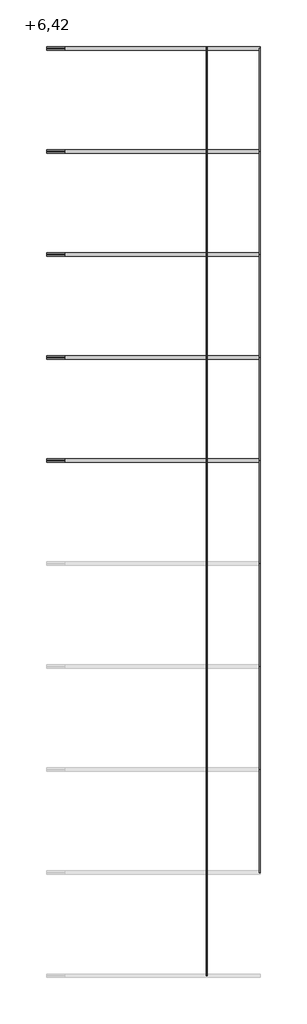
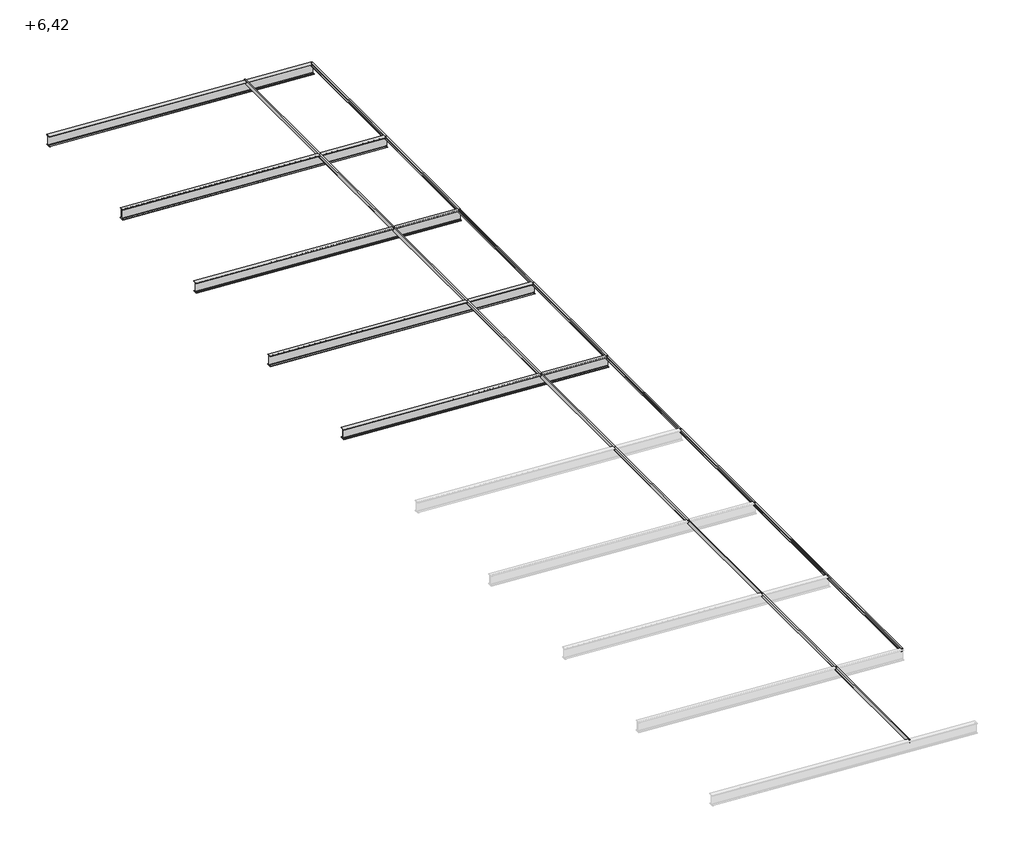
# One storey, part 2 of 2: 22 beams.
"""IFC4 building model written with IfcOpenShell, lengths in millimetres."""

from ifc_helpers import new_model, si_unit, frame, origin, place, context, project, spatial, polyline, ellipse_curve, transform, mapped, element, save
from ifc_brep_helpers import plane_surface, revolved_surface, advanced_brep
from components import c160_6856dfb5, c160_c7498115, c160_33551c21, c160_022745be

model = new_model("IFC4")

# Units and contexts
model_context = context("Model", 3, world=origin())
ifc_project = project(units=[si_unit("LENGTHUNIT", "METRE", prefix="MILLI")], contexts=[model_context])

# Site, building, storey
site = spatial("IfcSite", under=ifc_project)
building = spatial("IfcBuilding", under=site)
storey = spatial("IfcBuildingStorey", under=building, Name="+6,42", Elevation=6424.0)

# Beams
placement = place(None, origin())
c160_shape = c160_6856dfb5(model_context)
element("IfcBeam", 1, ObjectType="RPLN C - Ceowniki normalne : C160", at=placement, inside=storey, context=model_context, shape_type="MappedRepresentation", body=[
    mapped(c160_shape, transform((988.8581153, -33912.4816585, 7071.1642849), x_axis=(0.0, 1.0, 0.0), y_axis=(-0.9981748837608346, 0.0, 0.06038958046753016), z_axis=(0.06038958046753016, 0.0, 0.9981748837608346))),
])
c160_2_shape = c160_c7498115(model_context)
element("IfcBeam", 2, ObjectType="RPLN C - Ceowniki normalne : C160", at=placement, inside=storey, context=model_context, shape_type="MappedRepresentation", body=[
    mapped(c160_2_shape, transform((4109.7867288, 14087.5183415, 6882.3481038), x_axis=(0.0, -1.0, 0.0), y_axis=(0.9981748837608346, 0.0, -0.06038958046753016), z_axis=(0.06038958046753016, 0.0, 0.9981748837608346))),
])
element("IfcBeam", 3, ObjectType="RPLN C - Ceowniki normalne : C160", at=placement, inside=storey, context=model_context, shape_type="MappedRepresentation", body=[
    mapped(c160_shape, transform((988.8581153, -27912.4816585, 7071.1642849), x_axis=(0.0, 1.0, 0.0), y_axis=(-0.9981748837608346, 0.0, 0.06038958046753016), z_axis=(0.06038958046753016, 0.0, 0.9981748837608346))),
])
element("IfcBeam", 4, ObjectType="RPLN C - Ceowniki normalne : C160", at=placement, inside=storey, context=model_context, shape_type="MappedRepresentation", body=[
    mapped(c160_shape, transform((988.8581153, -21912.4816585, 7071.1642849), x_axis=(0.0, 1.0, 0.0), y_axis=(-0.9981748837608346, 0.0, 0.06038958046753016), z_axis=(0.06038958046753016, 0.0, 0.9981748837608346))),
])
element("IfcBeam", 5, ObjectType="RPLN C - Ceowniki normalne : C160", at=placement, inside=storey, context=model_context, shape_type="MappedRepresentation", body=[
    mapped(c160_shape, transform((988.8581153, -15912.4816585, 7071.1642849), x_axis=(0.0, 1.0, 0.0), y_axis=(-0.9981748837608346, 0.0, 0.06038958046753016), z_axis=(0.06038958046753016, 0.0, 0.9981748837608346))),
])
element("IfcBeam", 6, ObjectType="RPLN C - Ceowniki normalne : C160", at=placement, inside=storey, context=model_context, shape_type="MappedRepresentation", body=[
    mapped(c160_shape, transform((988.8581153, -9912.4816585, 7071.1642849), x_axis=(0.0, 1.0, 0.0), y_axis=(-0.9981748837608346, 0.0, 0.06038958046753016), z_axis=(0.06038958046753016, 0.0, 0.9981748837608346))),
])
element("IfcBeam", 7, ObjectType="RPLN C - Ceowniki normalne : C160", at=placement, inside=storey, context=model_context, shape_type="MappedRepresentation", body=[
    mapped(c160_shape, transform((988.8581153, -3912.4816585, 7071.1642849), x_axis=(0.0, 1.0, 0.0), y_axis=(-0.9981748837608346, 0.0, 0.06038958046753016), z_axis=(0.06038958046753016, 0.0, 0.9981748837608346))),
])
element("IfcBeam", 8, ObjectType="RPLN C - Ceowniki normalne : C160", at=placement, inside=storey, context=model_context, shape_type="MappedRepresentation", body=[
    mapped(c160_shape, transform((988.8581153, 2087.5183415, 7071.1642849), x_axis=(0.0, 1.0, 0.0), y_axis=(-0.9981748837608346, 0.0, 0.06038958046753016), z_axis=(0.06038958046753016, 0.0, 0.9981748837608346))),
])
element("IfcBeam", 9, ObjectType="RPLN C - Ceowniki normalne : C160", at=placement, inside=storey, context=model_context, shape_type="MappedRepresentation", body=[
    mapped(c160_shape, transform((988.8581153, 8087.5183415, 7071.1642849), x_axis=(0.0, 1.0, 0.0), y_axis=(-0.9981748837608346, 0.0, 0.06038958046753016), z_axis=(0.06038958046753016, 0.0, 0.9981748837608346))),
])
c160_3_shape = c160_33551c21(model_context)
element("IfcBeam", 10, ObjectType="RPLN C - Ceowniki normalne : C160", at=placement, inside=storey, context=model_context, shape_type="MappedRepresentation", body=[
    mapped(c160_3_shape, transform((4109.7867288, -27912.4816585, 6882.3481038), x_axis=(0.0, -1.0, 0.0), y_axis=(0.9981748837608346, 0.0, -0.06038958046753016), z_axis=(0.06038958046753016, 0.0, 0.9981748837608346))),
])
element("IfcBeam", 11, ObjectType="RPLN C - Ceowniki normalne : C160", at=placement, inside=storey, context=model_context, shape_type="MappedRepresentation", body=[
    mapped(c160_3_shape, transform((4109.7867288, -21912.4816585, 6882.3481038), x_axis=(0.0, -1.0, 0.0), y_axis=(0.9981748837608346, 0.0, -0.06038958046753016), z_axis=(0.06038958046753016, 0.0, 0.9981748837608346))),
])
element("IfcBeam", 12, ObjectType="RPLN C - Ceowniki normalne : C160", at=placement, inside=storey, context=model_context, shape_type="MappedRepresentation", body=[
    mapped(c160_3_shape, transform((4109.7867288, -15912.4816585, 6882.3481038), x_axis=(0.0, -1.0, 0.0), y_axis=(0.9981748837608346, 0.0, -0.06038958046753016), z_axis=(0.06038958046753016, 0.0, 0.9981748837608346))),
])
element("IfcBeam", 13, ObjectType="RPLN C - Ceowniki normalne : C160", at=placement, inside=storey, context=model_context, shape_type="MappedRepresentation", body=[
    mapped(c160_3_shape, transform((4109.7867288, -9912.4816585, 6882.3481038), x_axis=(0.0, -1.0, 0.0), y_axis=(0.9981748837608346, 0.0, -0.06038958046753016), z_axis=(0.06038958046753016, 0.0, 0.9981748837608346))),
])
element("IfcBeam", 14, ObjectType="RPLN C - Ceowniki normalne : C160", at=placement, inside=storey, context=model_context, shape_type="MappedRepresentation", body=[
    mapped(c160_3_shape, transform((4109.7867288, -3912.4816585, 6882.3481038), x_axis=(0.0, -1.0, 0.0), y_axis=(0.9981748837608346, 0.0, -0.06038958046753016), z_axis=(0.06038958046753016, 0.0, 0.9981748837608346))),
])
element("IfcBeam", 15, ObjectType="RPLN C - Ceowniki normalne : C160", at=placement, inside=storey, context=model_context, shape_type="MappedRepresentation", body=[
    mapped(c160_3_shape, transform((4109.7867288, 2087.5183415, 6882.3481038), x_axis=(0.0, -1.0, 0.0), y_axis=(0.9981748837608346, 0.0, -0.06038958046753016), z_axis=(0.06038958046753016, 0.0, 0.9981748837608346))),
])
element("IfcBeam", 16, ObjectType="RPLN C - Ceowniki normalne : C160", at=placement, inside=storey, context=model_context, shape_type="MappedRepresentation", body=[
    mapped(c160_3_shape, transform((4109.7867288, 8087.5183415, 6882.3481038), x_axis=(0.0, -1.0, 0.0), y_axis=(0.9981748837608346, 0.0, -0.06038958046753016), z_axis=(0.06038958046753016, 0.0, 0.9981748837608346))),
])
c160_4_shape = c160_022745be(model_context)
element("IfcBeam", 17, ObjectType="RPLN C - Ceowniki normalne : C160", at=placement, inside=storey, context=model_context, shape_type="MappedRepresentation", body=[
    mapped(c160_4_shape, transform((988.8581153, 14087.5183415, 7071.1642849), x_axis=(0.0, 1.0, 0.0), y_axis=(-0.9981748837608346, 0.0, 0.06038958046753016), z_axis=(0.06038958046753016, 0.0, 0.9981748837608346))),
])
element("IfcBeam", 18, ObjectType="RPLN IPE - Dwuteowniki równoległościenne : I500PE", at=placement, inside=storey, context=model_context, shape_type="AdvancedBrep", body=[
    advanced_brep(
    [(-8321.7693703, -6886.3816585, 7205.3741212), (-8321.7693703, -6812.4816585, 7205.3741212), (-8321.766713, -6812.4816585, 7189.3447052), (-8321.766713, -7012.4816585, 7189.3447052), (-8321.7693703, -7012.4816585, 7205.3741212), (-8321.7693703, -6938.5816585, 7205.3741212), (-8321.7728579, -6917.5816585, 7226.4127298), (-8321.8436076, -6917.5816585, 7653.1959312), (-8321.8470953, -6938.5816585, 7674.2345398), (-8321.8470953, -7012.4816585, 7674.2345398), (-8321.8497525, -7012.4816585, 7690.2639558), (-8321.8497525, -6812.4816585, 7690.2639558), (-8321.8470953, -6812.4816585, 7674.2345398), (-8321.8470953, -6886.3816585, 7674.2345398), (-8321.8436076, -6907.3816585, 7653.1959312), (-8321.7728579, -6907.3816585, 7226.4127298), (4132.9926321, -6812.4816585, 6451.8610201), (4132.9926321, -6886.3816585, 6451.8610201), (4132.9926321, -6907.3816585, 6472.8994176), (4132.9926321, -6907.3816585, 6899.6783387), (4132.9926321, -6886.3816585, 6920.7167363), (4132.9926321, -6812.4816585, 6920.7167363), (4132.9926321, -6812.4816585, 6936.7459915), (4132.9926321, -7012.4816585, 6936.7459915), (4132.9926321, -7012.4816585, 6920.7167363), (4132.9926321, -6938.5816585, 6920.7167363), (4132.9926321, -6917.5816585, 6899.6783387), (4132.9926321, -6917.5816585, 6472.8994176), (4132.9926321, -6938.5816585, 6451.8610201), (4132.9926321, -7012.4816585, 6451.8610201), (4132.9926321, -7012.4816585, 6435.8317648), (4132.9926321, -6812.4816585, 6435.8317648)],
    [
        (0, 1),
        (1, 2),
        (2, 3),
        (3, 4),
        (4, 5),
        (5, 6, ellipse_curve(frame((-8321.7728579, -6938.5816585, 7226.4127298), z_axis=(0.9999999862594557, 0.0, 0.0001657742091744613), x_axis=(-0.00016577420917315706, 0.0, 0.9999999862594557)), 21.0386088, 21.0)),
        (6, 7),
        (7, 8, ellipse_curve(frame((-8321.8436076, -6938.5816585, 7653.1959312), z_axis=(0.9999999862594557, 0.0, 0.0001657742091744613), x_axis=(-0.00016577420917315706, 0.0, 0.9999999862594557)), 21.0386088, 21.0)),
        (8, 9),
        (9, 10),
        (10, 11),
        (11, 12),
        (12, 13),
        (13, 14, ellipse_curve(frame((-8321.8436076, -6886.3816585, 7653.1959312), z_axis=(0.9999999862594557, 0.0, 0.0001657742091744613), x_axis=(-0.00016577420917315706, 0.0, 0.9999999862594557)), 21.0386088, 21.0)),
        (14, 15),
        (15, 0, ellipse_curve(frame((-8321.7728579, -6886.3816585, 7226.4127298), z_axis=(0.9999999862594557, 0.0, 0.0001657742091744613), x_axis=(-0.00016577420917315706, 0.0, 0.9999999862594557)), 21.0386088, 21.0)),
        (16, 17),
        (17, 18, ellipse_curve(frame((4132.9926321, -6886.3816585, 6472.8994176), z_axis=(-1.0, 0.0, 0.0), x_axis=(0.0, 0.0, 0.9999999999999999)), 21.0383975, 21.0)),
        (18, 19),
        (19, 20, ellipse_curve(frame((4132.9926321, -6886.3816585, 6899.6783387), z_axis=(-1.0, 0.0, 0.0), x_axis=(0.0, 0.0, 0.9999999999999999)), 21.0383975, 21.0)),
        (20, 21),
        (21, 22),
        (22, 23),
        (23, 24),
        (24, 25),
        (25, 26, ellipse_curve(frame((4132.9926321, -6938.5816585, 6899.6783387), z_axis=(-1.0, 0.0, 0.0), x_axis=(0.0, 0.0, 0.9999999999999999)), 21.0383975, 21.0)),
        (26, 27),
        (27, 28, ellipse_curve(frame((4132.9926321, -6938.5816585, 6472.8994176), z_axis=(-1.0, 0.0, 0.0), x_axis=(0.0, 0.0, 0.9999999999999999)), 21.0383975, 21.0)),
        (28, 29),
        (29, 30),
        (30, 31),
        (31, 16),
        (16, 1),
        (0, 17),
        (31, 2),
        (30, 3),
        (29, 4),
        (28, 5),
        (27, 6),
        (26, 7),
        (25, 8),
        (24, 9),
        (23, 10),
        (22, 11),
        (21, 12),
        (20, 13),
        (19, 14),
        (18, 15),
    ],
    [
        plane_surface(frame((-8321.6325431, -36912.4816585, 6379.9913475), z_axis=(-0.9999999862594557, 0.0, -0.0001657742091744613), x_axis=(0.0001657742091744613, 0.0, -0.9999999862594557))),
        plane_surface(frame((4132.9926321, -36912.4816585, 6983.0025864), z_axis=(1.0, 0.0, 0.0), x_axis=(0.0, 0.0, 1.0))),
        plane_surface(frame((4227.795571, -6812.4816585, 6446.1254423), z_axis=(0.06038958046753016, 0.0, 0.9981748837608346), x_axis=(-0.9981748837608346, 0.0, 0.06038958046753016))),
        plane_surface(frame((4226.8293377, -6812.4816585, 6430.1546441), z_axis=(0.0, 1.0, 0.0), x_axis=(-0.9981748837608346, 0.0, 0.06038958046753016))),
        plane_surface(frame((4226.8293377, -7012.4816585, 6430.1546441), z_axis=(-0.06038958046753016, 0.0, -0.9981748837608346), x_axis=(-0.9981748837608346, 0.0, 0.06038958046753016))),
        plane_surface(frame((4227.795571, -7012.4816585, 6446.1254423), z_axis=(0.0, -1.0, 0.0), x_axis=(-0.9981748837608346, 0.0, 0.06038958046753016))),
        plane_surface(frame((4227.795571, -6938.5816585, 6446.1254423), z_axis=(0.06038958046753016, 0.0, 0.9981748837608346), x_axis=(-0.9981748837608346, 0.0, 0.06038958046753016))),
        revolved_surface(polyline([(-8323.044526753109, -6959.5816585, 7226.489665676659), (4134.260813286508, -6959.5816585, 6472.822692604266)]), (4229.0637522, -6938.5816585, 6467.0871148), (-0.9981748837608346, 0.0, 0.06038958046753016)),
        plane_surface(frame((4254.7897134, -6917.5816585, 6892.3096153), z_axis=(0.0, -1.0, 0.0), x_axis=(-0.9981748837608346, 0.0, 0.06038958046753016))),
        revolved_surface(polyline([(-8323.115276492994, -6959.5816585, 7653.272867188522), (4134.260813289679, -6959.5816585, 6899.601613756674)]), (4254.7897134, -6938.5816585, 6892.3096153), (-0.9981748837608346, 0.0, 0.06038958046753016)),
        plane_surface(frame((4256.0578946, -7012.4816585, 6913.2712879), z_axis=(-0.06038958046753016, 0.0, -0.9981748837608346), x_axis=(-0.9981748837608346, 0.0, 0.06038958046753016))),
        plane_surface(frame((4257.0241279, -7012.4816585, 6929.242086), z_axis=(0.0, -1.0, 0.0), x_axis=(-0.9981748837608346, 0.0, 0.06038958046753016))),
        plane_surface(frame((4257.0241279, -6812.4816585, 6929.242086), z_axis=(0.06038958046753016, 0.0, 0.9981748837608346), x_axis=(-0.9981748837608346, 0.0, 0.06038958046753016))),
        plane_surface(frame((4256.0578946, -6812.4816585, 6913.2712879), z_axis=(0.0, 1.0, 0.0), x_axis=(-0.9981748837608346, 0.0, 0.06038958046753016))),
        plane_surface(frame((4256.0578946, -6886.3816585, 6913.2712879), z_axis=(-0.06038958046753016, 0.0, -0.9981748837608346), x_axis=(-0.9981748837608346, 0.0, 0.06038958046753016))),
        revolved_surface(polyline([(-8323.115276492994, -6907.3816585, 7653.272867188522), (4134.260813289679, -6907.3816585, 6899.601613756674)]), (4254.7897134, -6886.3816585, 6892.3096153), (-0.9981748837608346, 0.0, 0.06038958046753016)),
        plane_surface(frame((4229.0637522, -6907.3816585, 6467.0871148), z_axis=(0.0, 1.0, 0.0), x_axis=(-0.9981748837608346, 0.0, 0.06038958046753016))),
        revolved_surface(polyline([(-8323.044526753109, -6907.3816585, 7226.489665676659), (4134.260813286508, -6907.3816585, 6472.822692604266)]), (4229.0637522, -6886.3816585, 6467.0871148), (-0.9981748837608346, 0.0, 0.06038958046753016)),
    ],
    [
        (0, [[1, 2, 3, 4, 5, 6, 7, 8, 9, 10, 11, 12, 13, 14, 15, 16]]),
        (1, [[17, 18, 19, 20, 21, 22, 23, 24, 25, 26, 27, 28, 29, 30, 31, 32]]),
        (2, [[33, -1, 34, -17]]),
        (3, [[35, -2, -33, -32]]),
        (4, [[36, -3, -35, -31]]),
        (5, [[37, -4, -36, -30]]),
        (6, [[38, -5, -37, -29]]),
        (7, [[39, -6, -38, -28]]),
        (8, [[40, -7, -39, -27]]),
        (9, [[41, -8, -40, -26]]),
        (10, [[42, -9, -41, -25]]),
        (11, [[43, -10, -42, -24]]),
        (12, [[44, -11, -43, -23]]),
        (13, [[45, -12, -44, -22]]),
        (14, [[46, -13, -45, -21]]),
        (15, [[47, -14, -46, -20]]),
        (16, [[48, -15, -47, -19]]),
        (17, [[-34, -16, -48, -18]]),
    ],
),
])
element("IfcBeam", 19, ObjectType="RPLN IPE - Dwuteowniki równoległościenne : I500PE", at=placement, inside=storey, context=model_context, shape_type="AdvancedBrep", body=[
    advanced_brep(
    [(-8321.7693703, -886.3816585, 7205.3741212), (-8321.7693703, -812.4816585, 7205.3741212), (-8321.766713, -812.4816585, 7189.3447052), (-8321.766713, -1012.4816585, 7189.3447052), (-8321.7693703, -1012.4816585, 7205.3741212), (-8321.7693703, -938.5816585, 7205.3741212), (-8321.7728579, -917.5816585, 7226.4127298), (-8321.8436076, -917.5816585, 7653.1959312), (-8321.8470953, -938.5816585, 7674.2345398), (-8321.8470953, -1012.4816585, 7674.2345398), (-8321.8497525, -1012.4816585, 7690.2639558), (-8321.8497525, -812.4816585, 7690.2639558), (-8321.8470953, -812.4816585, 7674.2345398), (-8321.8470953, -886.3816585, 7674.2345398), (-8321.8436076, -907.3816585, 7653.1959312), (-8321.7728579, -907.3816585, 7226.4127298), (4132.9926321, -812.4816585, 6451.8610201), (4132.9926321, -886.3816585, 6451.8610201), (4132.9926321, -907.3816585, 6472.8994176), (4132.9926321, -907.3816585, 6899.6783387), (4132.9926321, -886.3816585, 6920.7167363), (4132.9926321, -812.4816585, 6920.7167363), (4132.9926321, -812.4816585, 6936.7459915), (4132.9926321, -1012.4816585, 6936.7459915), (4132.9926321, -1012.4816585, 6920.7167363), (4132.9926321, -938.5816585, 6920.7167363), (4132.9926321, -917.5816585, 6899.6783387), (4132.9926321, -917.5816585, 6472.8994176), (4132.9926321, -938.5816585, 6451.8610201), (4132.9926321, -1012.4816585, 6451.8610201), (4132.9926321, -1012.4816585, 6435.8317648), (4132.9926321, -812.4816585, 6435.8317648)],
    [
        (0, 1),
        (1, 2),
        (2, 3),
        (3, 4),
        (4, 5),
        (5, 6, ellipse_curve(frame((-8321.7728579, -938.5816585, 7226.4127298), z_axis=(0.9999999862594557, 0.0, 0.0001657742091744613), x_axis=(-0.00016577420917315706, 0.0, 0.9999999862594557)), 21.0386088, 21.0)),
        (6, 7),
        (7, 8, ellipse_curve(frame((-8321.8436076, -938.5816585, 7653.1959312), z_axis=(0.9999999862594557, 0.0, 0.0001657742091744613), x_axis=(-0.00016577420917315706, 0.0, 0.9999999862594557)), 21.0386088, 21.0)),
        (8, 9),
        (9, 10),
        (10, 11),
        (11, 12),
        (12, 13),
        (13, 14, ellipse_curve(frame((-8321.8436076, -886.3816585, 7653.1959312), z_axis=(0.9999999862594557, 0.0, 0.0001657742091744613), x_axis=(-0.00016577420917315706, 0.0, 0.9999999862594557)), 21.0386088, 21.0)),
        (14, 15),
        (15, 0, ellipse_curve(frame((-8321.7728579, -886.3816585, 7226.4127298), z_axis=(0.9999999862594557, 0.0, 0.0001657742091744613), x_axis=(-0.00016577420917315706, 0.0, 0.9999999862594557)), 21.0386088, 21.0)),
        (16, 17),
        (17, 18, ellipse_curve(frame((4132.9926321, -886.3816585, 6472.8994176), z_axis=(-1.0, 0.0, 0.0), x_axis=(0.0, 0.0, 0.9999999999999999)), 21.0383975, 21.0)),
        (18, 19),
        (19, 20, ellipse_curve(frame((4132.9926321, -886.3816585, 6899.6783387), z_axis=(-1.0, 0.0, 0.0), x_axis=(0.0, 0.0, 0.9999999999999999)), 21.0383975, 21.0)),
        (20, 21),
        (21, 22),
        (22, 23),
        (23, 24),
        (24, 25),
        (25, 26, ellipse_curve(frame((4132.9926321, -938.5816585, 6899.6783387), z_axis=(-1.0, 0.0, 0.0), x_axis=(0.0, 0.0, 0.9999999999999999)), 21.0383975, 21.0)),
        (26, 27),
        (27, 28, ellipse_curve(frame((4132.9926321, -938.5816585, 6472.8994176), z_axis=(-1.0, 0.0, 0.0), x_axis=(0.0, 0.0, 0.9999999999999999)), 21.0383975, 21.0)),
        (28, 29),
        (29, 30),
        (30, 31),
        (31, 16),
        (16, 1),
        (0, 17),
        (31, 2),
        (30, 3),
        (29, 4),
        (28, 5),
        (27, 6),
        (26, 7),
        (25, 8),
        (24, 9),
        (23, 10),
        (22, 11),
        (21, 12),
        (20, 13),
        (19, 14),
        (18, 15),
    ],
    [
        plane_surface(frame((-8321.6325431, -36912.4816585, 6379.9913475), z_axis=(-0.9999999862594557, 0.0, -0.0001657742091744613), x_axis=(0.0001657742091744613, 0.0, -0.9999999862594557))),
        plane_surface(frame((4132.9926321, -36912.4816585, 6983.0025864), z_axis=(1.0, 0.0, 0.0), x_axis=(0.0, 0.0, 1.0))),
        plane_surface(frame((4227.795571, -812.4816585, 6446.1254423), z_axis=(0.06038958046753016, 0.0, 0.9981748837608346), x_axis=(-0.9981748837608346, 0.0, 0.06038958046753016))),
        plane_surface(frame((4226.8293377, -812.4816585, 6430.1546441), z_axis=(0.0, 1.0, 0.0), x_axis=(-0.9981748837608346, 0.0, 0.06038958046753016))),
        plane_surface(frame((4226.8293377, -1012.4816585, 6430.1546441), z_axis=(-0.06038958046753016, 0.0, -0.9981748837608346), x_axis=(-0.9981748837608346, 0.0, 0.06038958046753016))),
        plane_surface(frame((4227.795571, -1012.4816585, 6446.1254423), z_axis=(0.0, -1.0, 0.0), x_axis=(-0.9981748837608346, 0.0, 0.06038958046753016))),
        plane_surface(frame((4227.795571, -938.5816585, 6446.1254423), z_axis=(0.06038958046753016, 0.0, 0.9981748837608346), x_axis=(-0.9981748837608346, 0.0, 0.06038958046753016))),
        revolved_surface(polyline([(-8323.044526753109, -959.5816585, 7226.489665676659), (4134.260813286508, -959.5816585, 6472.822692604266)]), (4229.0637522, -938.5816585, 6467.0871148), (-0.9981748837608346, 0.0, 0.06038958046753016)),
        plane_surface(frame((4254.7897134, -917.5816585, 6892.3096153), z_axis=(0.0, -1.0, 0.0), x_axis=(-0.9981748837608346, 0.0, 0.06038958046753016))),
        revolved_surface(polyline([(-8323.115276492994, -959.5816585, 7653.272867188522), (4134.260813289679, -959.5816585, 6899.601613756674)]), (4254.7897134, -938.5816585, 6892.3096153), (-0.9981748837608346, 0.0, 0.06038958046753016)),
        plane_surface(frame((4256.0578946, -1012.4816585, 6913.2712879), z_axis=(-0.06038958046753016, 0.0, -0.9981748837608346), x_axis=(-0.9981748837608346, 0.0, 0.06038958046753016))),
        plane_surface(frame((4257.0241279, -1012.4816585, 6929.242086), z_axis=(0.0, -1.0, 0.0), x_axis=(-0.9981748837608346, 0.0, 0.06038958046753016))),
        plane_surface(frame((4257.0241279, -812.4816585, 6929.242086), z_axis=(0.06038958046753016, 0.0, 0.9981748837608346), x_axis=(-0.9981748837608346, 0.0, 0.06038958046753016))),
        plane_surface(frame((4256.0578946, -812.4816585, 6913.2712879), z_axis=(0.0, 1.0, 0.0), x_axis=(-0.9981748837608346, 0.0, 0.06038958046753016))),
        plane_surface(frame((4256.0578946, -886.3816585, 6913.2712879), z_axis=(-0.06038958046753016, 0.0, -0.9981748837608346), x_axis=(-0.9981748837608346, 0.0, 0.06038958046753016))),
        revolved_surface(polyline([(-8323.115276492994, -907.3816585, 7653.272867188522), (4134.260813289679, -907.3816585, 6899.601613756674)]), (4254.7897134, -886.3816585, 6892.3096153), (-0.9981748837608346, 0.0, 0.06038958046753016)),
        plane_surface(frame((4229.0637522, -907.3816585, 6467.0871148), z_axis=(0.0, 1.0, 0.0), x_axis=(-0.9981748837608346, 0.0, 0.06038958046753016))),
        revolved_surface(polyline([(-8323.044526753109, -907.3816585, 7226.489665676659), (4134.260813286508, -907.3816585, 6472.822692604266)]), (4229.0637522, -886.3816585, 6467.0871148), (-0.9981748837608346, 0.0, 0.06038958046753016)),
    ],
    [
        (0, [[1, 2, 3, 4, 5, 6, 7, 8, 9, 10, 11, 12, 13, 14, 15, 16]]),
        (1, [[17, 18, 19, 20, 21, 22, 23, 24, 25, 26, 27, 28, 29, 30, 31, 32]]),
        (2, [[33, -1, 34, -17]]),
        (3, [[35, -2, -33, -32]]),
        (4, [[36, -3, -35, -31]]),
        (5, [[37, -4, -36, -30]]),
        (6, [[38, -5, -37, -29]]),
        (7, [[39, -6, -38, -28]]),
        (8, [[40, -7, -39, -27]]),
        (9, [[41, -8, -40, -26]]),
        (10, [[42, -9, -41, -25]]),
        (11, [[43, -10, -42, -24]]),
        (12, [[44, -11, -43, -23]]),
        (13, [[45, -12, -44, -22]]),
        (14, [[46, -13, -45, -21]]),
        (15, [[47, -14, -46, -20]]),
        (16, [[48, -15, -47, -19]]),
        (17, [[-34, -16, -48, -18]]),
    ],
),
])
element("IfcBeam", 20, ObjectType="RPLN IPE - Dwuteowniki równoległościenne : I500PE", at=placement, inside=storey, context=model_context, shape_type="AdvancedBrep", body=[
    advanced_brep(
    [(-8321.7693703, 5113.6183415, 7205.3741212), (-8321.7693703, 5187.5183415, 7205.3741212), (-8321.766713, 5187.5183415, 7189.3447052), (-8321.766713, 4987.5183415, 7189.3447052), (-8321.7693703, 4987.5183415, 7205.3741212), (-8321.7693703, 5061.4183415, 7205.3741212), (-8321.7728579, 5082.4183415, 7226.4127298), (-8321.8436076, 5082.4183415, 7653.1959312), (-8321.8470953, 5061.4183415, 7674.2345398), (-8321.8470953, 4987.5183415, 7674.2345398), (-8321.8497525, 4987.5183415, 7690.2639558), (-8321.8497525, 5187.5183415, 7690.2639558), (-8321.8470953, 5187.5183415, 7674.2345398), (-8321.8470953, 5113.6183415, 7674.2345398), (-8321.8436076, 5092.6183415, 7653.1959312), (-8321.7728579, 5092.6183415, 7226.4127298), (4132.9926321, 5187.5183415, 6451.8610201), (4132.9926321, 5113.6183415, 6451.8610201), (4132.9926321, 5092.6183415, 6472.8994176), (4132.9926321, 5092.6183415, 6899.6783387), (4132.9926321, 5113.6183415, 6920.7167363), (4132.9926321, 5187.5183415, 6920.7167363), (4132.9926321, 5187.5183415, 6936.7459915), (4132.9926321, 4987.5183415, 6936.7459915), (4132.9926321, 4987.5183415, 6920.7167363), (4132.9926321, 5061.4183415, 6920.7167363), (4132.9926321, 5082.4183415, 6899.6783387), (4132.9926321, 5082.4183415, 6472.8994176), (4132.9926321, 5061.4183415, 6451.8610201), (4132.9926321, 4987.5183415, 6451.8610201), (4132.9926321, 4987.5183415, 6435.8317648), (4132.9926321, 5187.5183415, 6435.8317648)],
    [
        (0, 1),
        (1, 2),
        (2, 3),
        (3, 4),
        (4, 5),
        (5, 6, ellipse_curve(frame((-8321.7728579, 5061.4183415, 7226.4127298), z_axis=(0.9999999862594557, 0.0, 0.0001657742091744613), x_axis=(-0.00016577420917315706, 0.0, 0.9999999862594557)), 21.0386088, 21.0)),
        (6, 7),
        (7, 8, ellipse_curve(frame((-8321.8436076, 5061.4183415, 7653.1959312), z_axis=(0.9999999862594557, 0.0, 0.0001657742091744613), x_axis=(-0.00016577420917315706, 0.0, 0.9999999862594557)), 21.0386088, 21.0)),
        (8, 9),
        (9, 10),
        (10, 11),
        (11, 12),
        (12, 13),
        (13, 14, ellipse_curve(frame((-8321.8436076, 5113.6183415, 7653.1959312), z_axis=(0.9999999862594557, 0.0, 0.0001657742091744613), x_axis=(-0.00016577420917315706, 0.0, 0.9999999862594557)), 21.0386088, 21.0)),
        (14, 15),
        (15, 0, ellipse_curve(frame((-8321.7728579, 5113.6183415, 7226.4127298), z_axis=(0.9999999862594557, 0.0, 0.0001657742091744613), x_axis=(-0.00016577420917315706, 0.0, 0.9999999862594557)), 21.0386088, 21.0)),
        (16, 17),
        (17, 18, ellipse_curve(frame((4132.9926321, 5113.6183415, 6472.8994176), z_axis=(-1.0, 0.0, 0.0), x_axis=(0.0, 0.0, 0.9999999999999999)), 21.0383975, 21.0)),
        (18, 19),
        (19, 20, ellipse_curve(frame((4132.9926321, 5113.6183415, 6899.6783387), z_axis=(-1.0, 0.0, 0.0), x_axis=(0.0, 0.0, 0.9999999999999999)), 21.0383975, 21.0)),
        (20, 21),
        (21, 22),
        (22, 23),
        (23, 24),
        (24, 25),
        (25, 26, ellipse_curve(frame((4132.9926321, 5061.4183415, 6899.6783387), z_axis=(-1.0, 0.0, 0.0), x_axis=(0.0, 0.0, 0.9999999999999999)), 21.0383975, 21.0)),
        (26, 27),
        (27, 28, ellipse_curve(frame((4132.9926321, 5061.4183415, 6472.8994176), z_axis=(-1.0, 0.0, 0.0), x_axis=(0.0, 0.0, 0.9999999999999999)), 21.0383975, 21.0)),
        (28, 29),
        (29, 30),
        (30, 31),
        (31, 16),
        (16, 1),
        (0, 17),
        (31, 2),
        (30, 3),
        (29, 4),
        (28, 5),
        (27, 6),
        (26, 7),
        (25, 8),
        (24, 9),
        (23, 10),
        (22, 11),
        (21, 12),
        (20, 13),
        (19, 14),
        (18, 15),
    ],
    [
        plane_surface(frame((-8321.6325431, -36912.4816585, 6379.9913475), z_axis=(-0.9999999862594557, 0.0, -0.0001657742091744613), x_axis=(0.0001657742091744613, 0.0, -0.9999999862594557))),
        plane_surface(frame((4132.9926321, -36912.4816585, 6983.0025864), z_axis=(1.0, 0.0, 0.0), x_axis=(0.0, 0.0, 1.0))),
        plane_surface(frame((4227.795571, 5187.5183415, 6446.1254423), z_axis=(0.06038958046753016, 0.0, 0.9981748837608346), x_axis=(-0.9981748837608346, 0.0, 0.06038958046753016))),
        plane_surface(frame((4226.8293377, 5187.5183415, 6430.1546441), z_axis=(0.0, 1.0, 0.0), x_axis=(-0.9981748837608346, 0.0, 0.06038958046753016))),
        plane_surface(frame((4226.8293377, 4987.5183415, 6430.1546441), z_axis=(-0.06038958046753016, 0.0, -0.9981748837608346), x_axis=(-0.9981748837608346, 0.0, 0.06038958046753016))),
        plane_surface(frame((4227.795571, 4987.5183415, 6446.1254423), z_axis=(0.0, -1.0, 0.0), x_axis=(-0.9981748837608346, 0.0, 0.06038958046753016))),
        plane_surface(frame((4227.795571, 5061.4183415, 6446.1254423), z_axis=(0.06038958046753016, 0.0, 0.9981748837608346), x_axis=(-0.9981748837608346, 0.0, 0.06038958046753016))),
        revolved_surface(polyline([(-8323.044526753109, 5040.4183415, 7226.489665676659), (4134.260813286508, 5040.4183415, 6472.822692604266)]), (4229.0637522, 5061.4183415, 6467.0871148), (-0.9981748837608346, 0.0, 0.06038958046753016)),
        plane_surface(frame((4254.7897134, 5082.4183415, 6892.3096153), z_axis=(0.0, -1.0, 0.0), x_axis=(-0.9981748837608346, 0.0, 0.06038958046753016))),
        revolved_surface(polyline([(-8323.115276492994, 5040.4183415, 7653.272867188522), (4134.260813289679, 5040.4183415, 6899.601613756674)]), (4254.7897134, 5061.4183415, 6892.3096153), (-0.9981748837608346, 0.0, 0.06038958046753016)),
        plane_surface(frame((4256.0578946, 4987.5183415, 6913.2712879), z_axis=(-0.06038958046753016, 0.0, -0.9981748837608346), x_axis=(-0.9981748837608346, 0.0, 0.06038958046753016))),
        plane_surface(frame((4257.0241279, 4987.5183415, 6929.242086), z_axis=(0.0, -1.0, 0.0), x_axis=(-0.9981748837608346, 0.0, 0.06038958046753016))),
        plane_surface(frame((4257.0241279, 5187.5183415, 6929.242086), z_axis=(0.06038958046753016, 0.0, 0.9981748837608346), x_axis=(-0.9981748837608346, 0.0, 0.06038958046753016))),
        plane_surface(frame((4256.0578946, 5187.5183415, 6913.2712879), z_axis=(0.0, 1.0, 0.0), x_axis=(-0.9981748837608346, 0.0, 0.06038958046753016))),
        plane_surface(frame((4256.0578946, 5113.6183415, 6913.2712879), z_axis=(-0.06038958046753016, 0.0, -0.9981748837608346), x_axis=(-0.9981748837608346, 0.0, 0.06038958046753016))),
        revolved_surface(polyline([(-8323.115276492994, 5092.6183415, 7653.272867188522), (4134.260813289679, 5092.6183415, 6899.601613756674)]), (4254.7897134, 5113.6183415, 6892.3096153), (-0.9981748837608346, 0.0, 0.06038958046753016)),
        plane_surface(frame((4229.0637522, 5092.6183415, 6467.0871148), z_axis=(0.0, 1.0, 0.0), x_axis=(-0.9981748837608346, 0.0, 0.06038958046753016))),
        revolved_surface(polyline([(-8323.044526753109, 5092.6183415, 7226.489665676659), (4134.260813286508, 5092.6183415, 6472.822692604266)]), (4229.0637522, 5113.6183415, 6467.0871148), (-0.9981748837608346, 0.0, 0.06038958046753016)),
    ],
    [
        (0, [[1, 2, 3, 4, 5, 6, 7, 8, 9, 10, 11, 12, 13, 14, 15, 16]]),
        (1, [[17, 18, 19, 20, 21, 22, 23, 24, 25, 26, 27, 28, 29, 30, 31, 32]]),
        (2, [[33, -1, 34, -17]]),
        (3, [[35, -2, -33, -32]]),
        (4, [[36, -3, -35, -31]]),
        (5, [[37, -4, -36, -30]]),
        (6, [[38, -5, -37, -29]]),
        (7, [[39, -6, -38, -28]]),
        (8, [[40, -7, -39, -27]]),
        (9, [[41, -8, -40, -26]]),
        (10, [[42, -9, -41, -25]]),
        (11, [[43, -10, -42, -24]]),
        (12, [[44, -11, -43, -23]]),
        (13, [[45, -12, -44, -22]]),
        (14, [[46, -13, -45, -21]]),
        (15, [[47, -14, -46, -20]]),
        (16, [[48, -15, -47, -19]]),
        (17, [[-34, -16, -48, -18]]),
    ],
),
])
element("IfcBeam", 21, ObjectType="RPLN IPE - Dwuteowniki równoległościenne : I500PE", at=placement, inside=storey, context=model_context, shape_type="AdvancedBrep", body=[
    advanced_brep(
    [(-8321.7693703, 11113.6183415, 7205.3741212), (-8321.7693703, 11187.5183415, 7205.3741212), (-8321.766713, 11187.5183415, 7189.3447052), (-8321.766713, 10987.5183415, 7189.3447052), (-8321.7693703, 10987.5183415, 7205.3741212), (-8321.7693703, 11061.4183415, 7205.3741212), (-8321.7728579, 11082.4183415, 7226.4127298), (-8321.8436076, 11082.4183415, 7653.1959312), (-8321.8470953, 11061.4183415, 7674.2345398), (-8321.8470953, 10987.5183415, 7674.2345398), (-8321.8497525, 10987.5183415, 7690.2639558), (-8321.8497525, 11187.5183415, 7690.2639558), (-8321.8470953, 11187.5183415, 7674.2345398), (-8321.8470953, 11113.6183415, 7674.2345398), (-8321.8436076, 11092.6183415, 7653.1959312), (-8321.7728579, 11092.6183415, 7226.4127298), (4132.9926321, 11187.5183415, 6451.8610201), (4132.9926321, 11113.6183415, 6451.8610201), (4132.9926321, 11092.6183415, 6472.8994176), (4132.9926321, 11092.6183415, 6899.6783387), (4132.9926321, 11113.6183415, 6920.7167363), (4132.9926321, 11187.5183415, 6920.7167363), (4132.9926321, 11187.5183415, 6936.7459915), (4132.9926321, 10987.5183415, 6936.7459915), (4132.9926321, 10987.5183415, 6920.7167363), (4132.9926321, 11061.4183415, 6920.7167363), (4132.9926321, 11082.4183415, 6899.6783387), (4132.9926321, 11082.4183415, 6472.8994176), (4132.9926321, 11061.4183415, 6451.8610201), (4132.9926321, 10987.5183415, 6451.8610201), (4132.9926321, 10987.5183415, 6435.8317648), (4132.9926321, 11187.5183415, 6435.8317648)],
    [
        (0, 1),
        (1, 2),
        (2, 3),
        (3, 4),
        (4, 5),
        (5, 6, ellipse_curve(frame((-8321.7728579, 11061.4183415, 7226.4127298), z_axis=(0.9999999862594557, 0.0, 0.0001657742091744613), x_axis=(-0.00016577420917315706, 0.0, 0.9999999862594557)), 21.0386088, 21.0)),
        (6, 7),
        (7, 8, ellipse_curve(frame((-8321.8436076, 11061.4183415, 7653.1959312), z_axis=(0.9999999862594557, 0.0, 0.0001657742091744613), x_axis=(-0.00016577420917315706, 0.0, 0.9999999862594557)), 21.0386088, 21.0)),
        (8, 9),
        (9, 10),
        (10, 11),
        (11, 12),
        (12, 13),
        (13, 14, ellipse_curve(frame((-8321.8436076, 11113.6183415, 7653.1959312), z_axis=(0.9999999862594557, 0.0, 0.0001657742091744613), x_axis=(-0.00016577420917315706, 0.0, 0.9999999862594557)), 21.0386088, 21.0)),
        (14, 15),
        (15, 0, ellipse_curve(frame((-8321.7728579, 11113.6183415, 7226.4127298), z_axis=(0.9999999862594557, 0.0, 0.0001657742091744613), x_axis=(-0.00016577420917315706, 0.0, 0.9999999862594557)), 21.0386088, 21.0)),
        (16, 17),
        (17, 18, ellipse_curve(frame((4132.9926321, 11113.6183415, 6472.8994176), z_axis=(-1.0, 0.0, 0.0), x_axis=(0.0, 0.0, 0.9999999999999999)), 21.0383975, 21.0)),
        (18, 19),
        (19, 20, ellipse_curve(frame((4132.9926321, 11113.6183415, 6899.6783387), z_axis=(-1.0, 0.0, 0.0), x_axis=(0.0, 0.0, 0.9999999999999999)), 21.0383975, 21.0)),
        (20, 21),
        (21, 22),
        (22, 23),
        (23, 24),
        (24, 25),
        (25, 26, ellipse_curve(frame((4132.9926321, 11061.4183415, 6899.6783387), z_axis=(-1.0, 0.0, 0.0), x_axis=(0.0, 0.0, 0.9999999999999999)), 21.0383975, 21.0)),
        (26, 27),
        (27, 28, ellipse_curve(frame((4132.9926321, 11061.4183415, 6472.8994176), z_axis=(-1.0, 0.0, 0.0), x_axis=(0.0, 0.0, 0.9999999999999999)), 21.0383975, 21.0)),
        (28, 29),
        (29, 30),
        (30, 31),
        (31, 16),
        (16, 1),
        (0, 17),
        (31, 2),
        (30, 3),
        (29, 4),
        (28, 5),
        (27, 6),
        (26, 7),
        (25, 8),
        (24, 9),
        (23, 10),
        (22, 11),
        (21, 12),
        (20, 13),
        (19, 14),
        (18, 15),
    ],
    [
        plane_surface(frame((-8321.6325431, -36912.4816585, 6379.9913475), z_axis=(-0.9999999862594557, 0.0, -0.0001657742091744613), x_axis=(0.0001657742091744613, 0.0, -0.9999999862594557))),
        plane_surface(frame((4132.9926321, -36912.4816585, 6983.0025864), z_axis=(1.0, 0.0, 0.0), x_axis=(0.0, 0.0, 1.0))),
        plane_surface(frame((4227.795571, 11187.5183415, 6446.1254423), z_axis=(0.06038958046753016, 0.0, 0.9981748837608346), x_axis=(-0.9981748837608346, 0.0, 0.06038958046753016))),
        plane_surface(frame((4226.8293377, 11187.5183415, 6430.1546441), z_axis=(0.0, 1.0, 0.0), x_axis=(-0.9981748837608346, 0.0, 0.06038958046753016))),
        plane_surface(frame((4226.8293377, 10987.5183415, 6430.1546441), z_axis=(-0.06038958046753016, 0.0, -0.9981748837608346), x_axis=(-0.9981748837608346, 0.0, 0.06038958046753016))),
        plane_surface(frame((4227.795571, 10987.5183415, 6446.1254423), z_axis=(0.0, -1.0, 0.0), x_axis=(-0.9981748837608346, 0.0, 0.06038958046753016))),
        plane_surface(frame((4227.795571, 11061.4183415, 6446.1254423), z_axis=(0.06038958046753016, 0.0, 0.9981748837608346), x_axis=(-0.9981748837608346, 0.0, 0.06038958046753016))),
        revolved_surface(polyline([(-8323.044526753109, 11040.4183415, 7226.489665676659), (4134.260813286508, 11040.4183415, 6472.822692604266)]), (4229.0637522, 11061.4183415, 6467.0871148), (-0.9981748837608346, 0.0, 0.06038958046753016)),
        plane_surface(frame((4254.7897134, 11082.4183415, 6892.3096153), z_axis=(0.0, -1.0, 0.0), x_axis=(-0.9981748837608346, 0.0, 0.06038958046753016))),
        revolved_surface(polyline([(-8323.115276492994, 11040.4183415, 7653.272867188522), (4134.260813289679, 11040.4183415, 6899.601613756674)]), (4254.7897134, 11061.4183415, 6892.3096153), (-0.9981748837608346, 0.0, 0.06038958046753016)),
        plane_surface(frame((4256.0578946, 10987.5183415, 6913.2712879), z_axis=(-0.06038958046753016, 0.0, -0.9981748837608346), x_axis=(-0.9981748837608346, 0.0, 0.06038958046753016))),
        plane_surface(frame((4257.0241279, 10987.5183415, 6929.242086), z_axis=(0.0, -1.0, 0.0), x_axis=(-0.9981748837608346, 0.0, 0.06038958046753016))),
        plane_surface(frame((4257.0241279, 11187.5183415, 6929.242086), z_axis=(0.06038958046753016, 0.0, 0.9981748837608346), x_axis=(-0.9981748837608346, 0.0, 0.06038958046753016))),
        plane_surface(frame((4256.0578946, 11187.5183415, 6913.2712879), z_axis=(0.0, 1.0, 0.0), x_axis=(-0.9981748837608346, 0.0, 0.06038958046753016))),
        plane_surface(frame((4256.0578946, 11113.6183415, 6913.2712879), z_axis=(-0.06038958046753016, 0.0, -0.9981748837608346), x_axis=(-0.9981748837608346, 0.0, 0.06038958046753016))),
        revolved_surface(polyline([(-8323.115276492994, 11092.6183415, 7653.272867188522), (4134.260813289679, 11092.6183415, 6899.601613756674)]), (4254.7897134, 11113.6183415, 6892.3096153), (-0.9981748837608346, 0.0, 0.06038958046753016)),
        plane_surface(frame((4229.0637522, 11092.6183415, 6467.0871148), z_axis=(0.0, 1.0, 0.0), x_axis=(-0.9981748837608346, 0.0, 0.06038958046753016))),
        revolved_surface(polyline([(-8323.044526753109, 11092.6183415, 7226.489665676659), (4134.260813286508, 11092.6183415, 6472.822692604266)]), (4229.0637522, 11113.6183415, 6467.0871148), (-0.9981748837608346, 0.0, 0.06038958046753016)),
    ],
    [
        (0, [[1, 2, 3, 4, 5, 6, 7, 8, 9, 10, 11, 12, 13, 14, 15, 16]]),
        (1, [[17, 18, 19, 20, 21, 22, 23, 24, 25, 26, 27, 28, 29, 30, 31, 32]]),
        (2, [[33, -1, 34, -17]]),
        (3, [[35, -2, -33, -32]]),
        (4, [[36, -3, -35, -31]]),
        (5, [[37, -4, -36, -30]]),
        (6, [[38, -5, -37, -29]]),
        (7, [[39, -6, -38, -28]]),
        (8, [[40, -7, -39, -27]]),
        (9, [[41, -8, -40, -26]]),
        (10, [[42, -9, -41, -25]]),
        (11, [[43, -10, -42, -24]]),
        (12, [[44, -11, -43, -23]]),
        (13, [[45, -12, -44, -22]]),
        (14, [[46, -13, -45, -21]]),
        (15, [[47, -14, -46, -20]]),
        (16, [[48, -15, -47, -19]]),
        (17, [[-34, -16, -48, -18]]),
    ],
),
])
element("IfcBeam", 22, ObjectType="RPLN IPE - Dwuteowniki równoległościenne : I500PE", at=placement, inside=storey, context=model_context, shape_type="AdvancedBrep", body=[
    advanced_brep(
    [(-8321.7693703, 17113.6183415, 7205.3741212), (-8321.7693703, 17187.5183415, 7205.3741212), (-8321.766713, 17187.5183415, 7189.3447052), (-8321.766713, 16987.5183415, 7189.3447052), (-8321.7693703, 16987.5183415, 7205.3741212), (-8321.7693703, 17061.4183415, 7205.3741212), (-8321.7728579, 17082.4183415, 7226.4127298), (-8321.8436076, 17082.4183415, 7653.1959312), (-8321.8470953, 17061.4183415, 7674.2345398), (-8321.8470953, 16987.5183415, 7674.2345398), (-8321.8497525, 16987.5183415, 7690.2639558), (-8321.8497525, 17187.5183415, 7690.2639558), (-8321.8470953, 17187.5183415, 7674.2345398), (-8321.8470953, 17113.6183415, 7674.2345398), (-8321.8436076, 17092.6183415, 7653.1959312), (-8321.7728579, 17092.6183415, 7226.4127298), (4132.9926321, 17187.5183415, 6451.8610201), (4132.9926321, 17113.6183415, 6451.8610201), (4132.9926321, 17092.6183415, 6472.8994176), (4132.9926321, 17092.6183415, 6899.6783387), (4132.9926321, 17113.6183415, 6920.7167363), (4132.9926321, 17187.5183415, 6920.7167363), (4132.9926321, 17187.5183415, 6936.7459915), (4132.9926321, 16987.5183415, 6936.7459915), (4132.9926321, 16987.5183415, 6920.7167363), (4132.9926321, 17061.4183415, 6920.7167363), (4132.9926321, 17082.4183415, 6899.6783387), (4132.9926321, 17082.4183415, 6472.8994176), (4132.9926321, 17061.4183415, 6451.8610201), (4132.9926321, 16987.5183415, 6451.8610201), (4132.9926321, 16987.5183415, 6435.8317648), (4132.9926321, 17187.5183415, 6435.8317648)],
    [
        (0, 1),
        (1, 2),
        (2, 3),
        (3, 4),
        (4, 5),
        (5, 6, ellipse_curve(frame((-8321.7728579, 17061.4183415, 7226.4127298), z_axis=(0.9999999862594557, 0.0, 0.0001657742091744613), x_axis=(-0.00016577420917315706, 0.0, 0.9999999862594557)), 21.0386088, 21.0)),
        (6, 7),
        (7, 8, ellipse_curve(frame((-8321.8436076, 17061.4183415, 7653.1959312), z_axis=(0.9999999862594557, 0.0, 0.0001657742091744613), x_axis=(-0.00016577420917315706, 0.0, 0.9999999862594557)), 21.0386088, 21.0)),
        (8, 9),
        (9, 10),
        (10, 11),
        (11, 12),
        (12, 13),
        (13, 14, ellipse_curve(frame((-8321.8436076, 17113.6183415, 7653.1959312), z_axis=(0.9999999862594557, 0.0, 0.0001657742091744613), x_axis=(-0.00016577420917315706, 0.0, 0.9999999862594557)), 21.0386088, 21.0)),
        (14, 15),
        (15, 0, ellipse_curve(frame((-8321.7728579, 17113.6183415, 7226.4127298), z_axis=(0.9999999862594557, 0.0, 0.0001657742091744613), x_axis=(-0.00016577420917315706, 0.0, 0.9999999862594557)), 21.0386088, 21.0)),
        (16, 17),
        (17, 18, ellipse_curve(frame((4132.9926321, 17113.6183415, 6472.8994176), z_axis=(-1.0, 0.0, 0.0), x_axis=(0.0, 0.0, 0.9999999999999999)), 21.0383975, 21.0)),
        (18, 19),
        (19, 20, ellipse_curve(frame((4132.9926321, 17113.6183415, 6899.6783387), z_axis=(-1.0, 0.0, 0.0), x_axis=(0.0, 0.0, 0.9999999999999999)), 21.0383975, 21.0)),
        (20, 21),
        (21, 22),
        (22, 23),
        (23, 24),
        (24, 25),
        (25, 26, ellipse_curve(frame((4132.9926321, 17061.4183415, 6899.6783387), z_axis=(-1.0, 0.0, 0.0), x_axis=(0.0, 0.0, 0.9999999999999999)), 21.0383975, 21.0)),
        (26, 27),
        (27, 28, ellipse_curve(frame((4132.9926321, 17061.4183415, 6472.8994176), z_axis=(-1.0, 0.0, 0.0), x_axis=(0.0, 0.0, 0.9999999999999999)), 21.0383975, 21.0)),
        (28, 29),
        (29, 30),
        (30, 31),
        (31, 16),
        (16, 1),
        (0, 17),
        (31, 2),
        (30, 3),
        (29, 4),
        (28, 5),
        (27, 6),
        (26, 7),
        (25, 8),
        (24, 9),
        (23, 10),
        (22, 11),
        (21, 12),
        (20, 13),
        (19, 14),
        (18, 15),
    ],
    [
        plane_surface(frame((-8321.6325431, -36912.4816585, 6379.9913475), z_axis=(-0.9999999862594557, 0.0, -0.0001657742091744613), x_axis=(0.0001657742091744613, 0.0, -0.9999999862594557))),
        plane_surface(frame((4132.9926321, -36912.4816585, 6983.0025864), z_axis=(1.0, 0.0, 0.0), x_axis=(0.0, 0.0, 1.0))),
        plane_surface(frame((4227.795571, 17187.5183415, 6446.1254423), z_axis=(0.06038958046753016, 0.0, 0.9981748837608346), x_axis=(-0.9981748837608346, 0.0, 0.06038958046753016))),
        plane_surface(frame((4226.8293377, 17187.5183415, 6430.1546441), z_axis=(0.0, 1.0, 0.0), x_axis=(-0.9981748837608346, 0.0, 0.06038958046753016))),
        plane_surface(frame((4226.8293377, 16987.5183415, 6430.1546441), z_axis=(-0.06038958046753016, 0.0, -0.9981748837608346), x_axis=(-0.9981748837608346, 0.0, 0.06038958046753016))),
        plane_surface(frame((4227.795571, 16987.5183415, 6446.1254423), z_axis=(0.0, -1.0, 0.0), x_axis=(-0.9981748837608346, 0.0, 0.06038958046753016))),
        plane_surface(frame((4227.795571, 17061.4183415, 6446.1254423), z_axis=(0.06038958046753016, 0.0, 0.9981748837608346), x_axis=(-0.9981748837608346, 0.0, 0.06038958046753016))),
        revolved_surface(polyline([(-8323.044526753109, 17040.4183415, 7226.489665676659), (4134.260813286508, 17040.4183415, 6472.822692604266)]), (4229.0637522, 17061.4183415, 6467.0871148), (-0.9981748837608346, 0.0, 0.06038958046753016)),
        plane_surface(frame((4254.7897134, 17082.4183415, 6892.3096153), z_axis=(0.0, -1.0, 0.0), x_axis=(-0.9981748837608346, 0.0, 0.06038958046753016))),
        revolved_surface(polyline([(-8323.115276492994, 17040.4183415, 7653.272867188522), (4134.260813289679, 17040.4183415, 6899.601613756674)]), (4254.7897134, 17061.4183415, 6892.3096153), (-0.9981748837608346, 0.0, 0.06038958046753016)),
        plane_surface(frame((4256.0578946, 16987.5183415, 6913.2712879), z_axis=(-0.06038958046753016, 0.0, -0.9981748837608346), x_axis=(-0.9981748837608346, 0.0, 0.06038958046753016))),
        plane_surface(frame((4257.0241279, 16987.5183415, 6929.242086), z_axis=(0.0, -1.0, 0.0), x_axis=(-0.9981748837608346, 0.0, 0.06038958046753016))),
        plane_surface(frame((4257.0241279, 17187.5183415, 6929.242086), z_axis=(0.06038958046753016, 0.0, 0.9981748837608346), x_axis=(-0.9981748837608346, 0.0, 0.06038958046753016))),
        plane_surface(frame((4256.0578946, 17187.5183415, 6913.2712879), z_axis=(0.0, 1.0, 0.0), x_axis=(-0.9981748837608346, 0.0, 0.06038958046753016))),
        plane_surface(frame((4256.0578946, 17113.6183415, 6913.2712879), z_axis=(-0.06038958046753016, 0.0, -0.9981748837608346), x_axis=(-0.9981748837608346, 0.0, 0.06038958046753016))),
        revolved_surface(polyline([(-8323.115276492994, 17092.6183415, 7653.272867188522), (4134.260813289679, 17092.6183415, 6899.601613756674)]), (4254.7897134, 17113.6183415, 6892.3096153), (-0.9981748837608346, 0.0, 0.06038958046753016)),
        plane_surface(frame((4229.0637522, 17092.6183415, 6467.0871148), z_axis=(0.0, 1.0, 0.0), x_axis=(-0.9981748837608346, 0.0, 0.06038958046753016))),
        revolved_surface(polyline([(-8323.044526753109, 17092.6183415, 7226.489665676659), (4134.260813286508, 17092.6183415, 6472.822692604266)]), (4229.0637522, 17113.6183415, 6467.0871148), (-0.9981748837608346, 0.0, 0.06038958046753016)),
    ],
    [
        (0, [[1, 2, 3, 4, 5, 6, 7, 8, 9, 10, 11, 12, 13, 14, 15, 16]]),
        (1, [[17, 18, 19, 20, 21, 22, 23, 24, 25, 26, 27, 28, 29, 30, 31, 32]]),
        (2, [[33, -1, 34, -17]]),
        (3, [[35, -2, -33, -32]]),
        (4, [[36, -3, -35, -31]]),
        (5, [[37, -4, -36, -30]]),
        (6, [[38, -5, -37, -29]]),
        (7, [[39, -6, -38, -28]]),
        (8, [[40, -7, -39, -27]]),
        (9, [[41, -8, -40, -26]]),
        (10, [[42, -9, -41, -25]]),
        (11, [[43, -10, -42, -24]]),
        (12, [[44, -11, -43, -23]]),
        (13, [[45, -12, -44, -22]]),
        (14, [[46, -13, -45, -21]]),
        (15, [[47, -14, -46, -20]]),
        (16, [[48, -15, -47, -19]]),
        (17, [[-34, -16, -48, -18]]),
    ],
),
])

save(model, "model.ifc")
